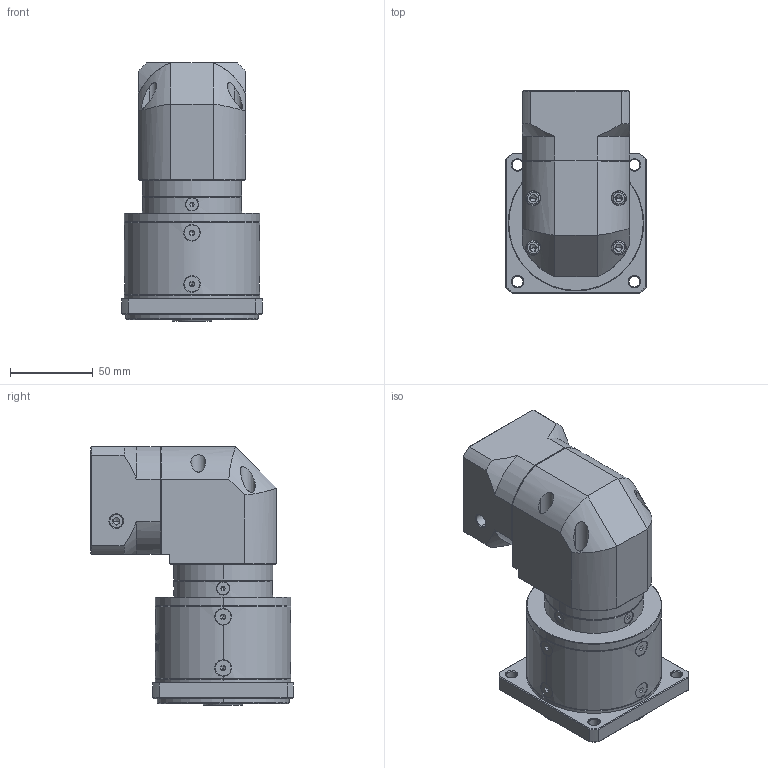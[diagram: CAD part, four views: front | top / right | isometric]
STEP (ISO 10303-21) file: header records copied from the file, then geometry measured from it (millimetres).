
FILE_DESCRIPTION (( 'STEP AP214' ), '1' );
FILE_NAME ('ZFR080-K15-L2-P2-14-60-75-M5.step', '2023-08-25T07:24:06', ( '' ), ( '' ), 'SwSTEP 2.0', 'SolidWorks 2016', '' );
FILE_SCHEMA (( 'AUTOMOTIVE_DESIGN' ));
Length unit declared in the file: millimetre
Products named in the file (1): ZFR080-K15-L2-P2-14-60-75-M5
Bounding box: 85 x 122.7 x 156.5 mm (x, y, z)
Volume: 782361.4 mm3; surface area: 102423.8 mm2
Topology: 17 solids, 18 shells, 2426 faces, 6366 edges, 4054 vertices
Faces by surface type: plane 1171, cylinder 444, bspline 390, cone 375, torus 46
Entity records: 125371 total; most frequent: CARTESIAN_POINT 43637, ORIENTED_EDGE 12644, DIRECTION 9799, EDGE_CURVE 6322, VERTEX_POINT 4054, VECTOR 3359, LINE 3359, AXIS2_PLACEMENT_3D 3220
